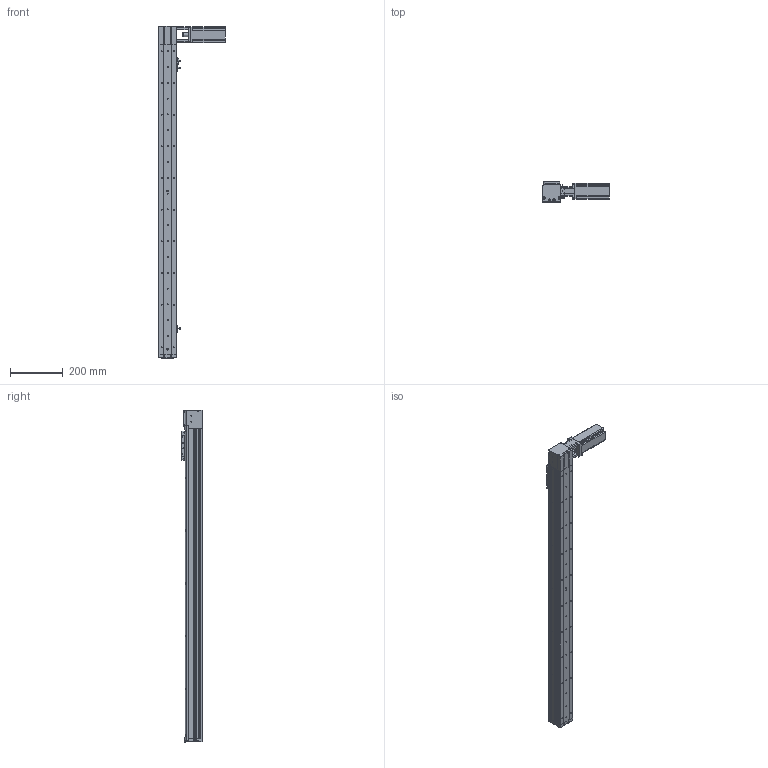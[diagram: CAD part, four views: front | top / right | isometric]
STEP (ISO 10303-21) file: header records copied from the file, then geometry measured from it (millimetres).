
FILE_DESCRIPTION (( 'STEP AP214' ), '1' );
FILE_NAME ('KSD68BS-S1000-MRT-CR.STEP', '2019-08-27T07:15:45', ( '微软用户' ), ( '微软中国' ), 'SwSTEP 2.0', 'SolidWorks 2014', '' );
FILE_SCHEMA (( 'AUTOMOTIVE_DESIGN' ));
Length unit declared in the file: millimetre
Products named in the file (13): KSD68BS-S1000-MRT-CR; KSD68BS 1000行程底板全封闭; 台达ECMA－C20604AS伺服电机（400W); U倰嫖萇EEㄜSX672; 感应片68宽全封闭; 68单导轨全封闭同步带安装板; 68单导轨全封闭同步带电机座左; 68宽单导轨全封闭同步带端板; KSD68BS 1000行程侧板全封闭; 68宽单导轨全封闭丝杆传动安装板1防护罩; 68遵裔啣揤啣1; KSD68BS 1000行程盖板全封闭; 100遵鎮湛假蚾啣1
Assembly tree (16 placements, depth 2):
  KSD68BS-S1000-MRT-CR
    KSD68BS 1000行程底板全封闭
    台达ECMA－C20604AS伺服电机（400W)
    U倰嫖萇EEㄜSX672  x3
    感应片68宽全封闭
    68单导轨全封闭同步带安装板
    68单导轨全封闭同步带电机座左
    68宽单导轨全封闭同步带端板
    KSD68BS 1000行程侧板全封闭  x2
    68宽单导轨全封闭丝杆传动安装板1防护罩
    68遵裔啣揤啣1  x2
    KSD68BS 1000行程盖板全封闭
    100遵鎮湛假蚾啣1
Bounding box: 252.7 x 77 x 1258.1 mm (x, y, z)
Volume: 2484565.3 mm3; surface area: 934190.7 mm2
Topology: 17 solids, 17 shells, 1467 faces, 4180 edges, 2668 vertices
Faces by surface type: cylinder 697, plane 602, cone 168
Entity records: 46674 total; most frequent: CARTESIAN_POINT 8033, DIRECTION 6911, ORIENTED_EDGE 6612, EDGE_CURVE 3306, AXIS2_PLACEMENT_3D 2502, VERTEX_POINT 2166, VECTOR 1907, LINE 1907
